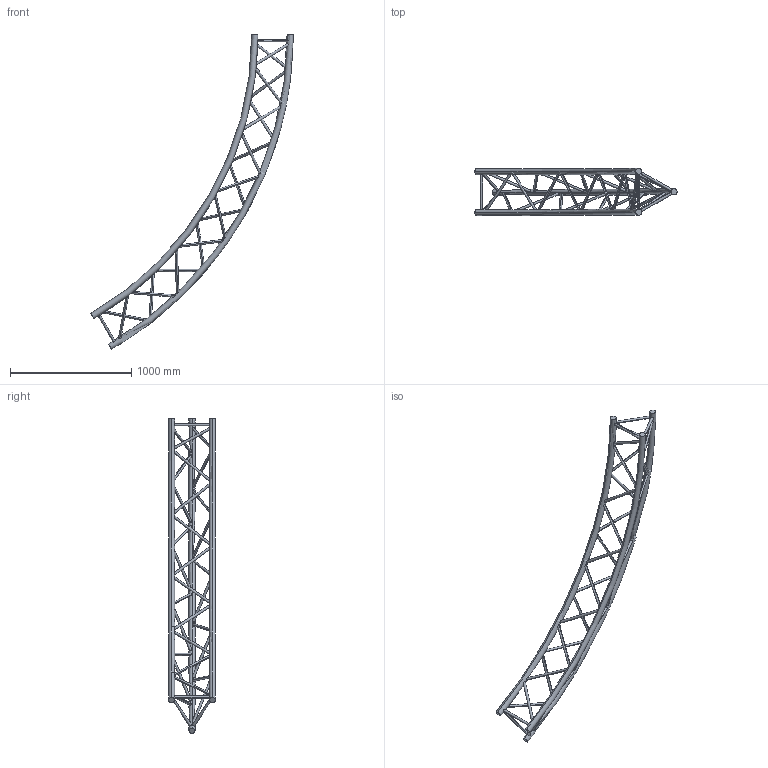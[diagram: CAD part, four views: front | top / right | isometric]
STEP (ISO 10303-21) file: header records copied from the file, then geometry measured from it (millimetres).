
FILE_DESCRIPTION (( 'STEP AP203' ), '1' );
FILE_NAME ('SXC39600PE.STEP', '2009-10-21T12:16:24', ( 'CEDIA' ), ( 'CEDIA INDUSTRIE' ), 'SwSTEP 2.0', 'SolidWorks 2009', '' );
FILE_SCHEMA (( 'CONFIG_CONTROL_DESIGN' ));
Length unit declared in the file: millimetre
Products named in the file (1): SXC39600PE
Bounding box: 1670.93 x 387 x 2598.08 mm (x, y, z)
Volume: 21193841.4 mm3; surface area: 2166738.9 mm2
Topology: 1 solids, 1 shells, 84 faces, 234 edges, 156 vertices
Faces by surface type: cylinder 72, torus 6, plane 6
Entity records: 9694 total; most frequent: CARTESIAN_POINT 7588, ORIENTED_EDGE 468, DIRECTION 278, EDGE_CURVE 234, VERTEX_POINT 156, EDGE_LOOP 156, B_SPLINE_CURVE_WITH_KNOTS 144, AXIS2_PLACEMENT_3D 103
